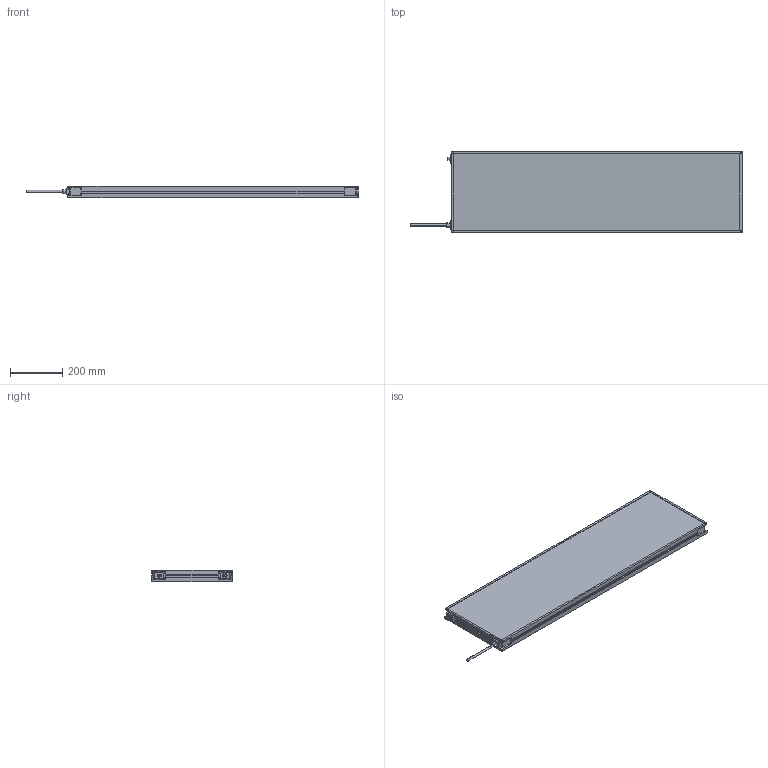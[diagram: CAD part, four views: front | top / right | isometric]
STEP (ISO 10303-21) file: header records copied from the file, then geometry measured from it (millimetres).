
FILE_DESCRIPTION (( 'STEP AP214' ), '1' );
FILE_NAME ('MBACK-xxxx-xxx-M1A2_CLIENT300x1100.STEP', '2022-04-01T11:32:04', ( '' ), ( '' ), 'SwSTEP 2.0', 'SolidWorks 2020', '' );
FILE_SCHEMA (( 'AUTOMOTIVE_DESIGN' ));
Length unit declared in the file: millimetre
Products named in the file (1): MBACK-xxxx-xxx-M1A2_CLIENT300x1100
Bounding box: 1267.4 x 308 x 45.5 mm (x, y, z)
Volume: 14174773.1 mm3; surface area: 876517 mm2
Topology: 1 solids, 1 shells, 470 faces, 1210 edges, 804 vertices
Faces by surface type: plane 265, cylinder 117, bspline 80, cone 8
Entity records: 18046 total; most frequent: CARTESIAN_POINT 6837, ORIENTED_EDGE 2420, DIRECTION 2082, EDGE_CURVE 1210, VERTEX_POINT 804, VECTOR 800, LINE 800, AXIS2_PLACEMENT_3D 641
